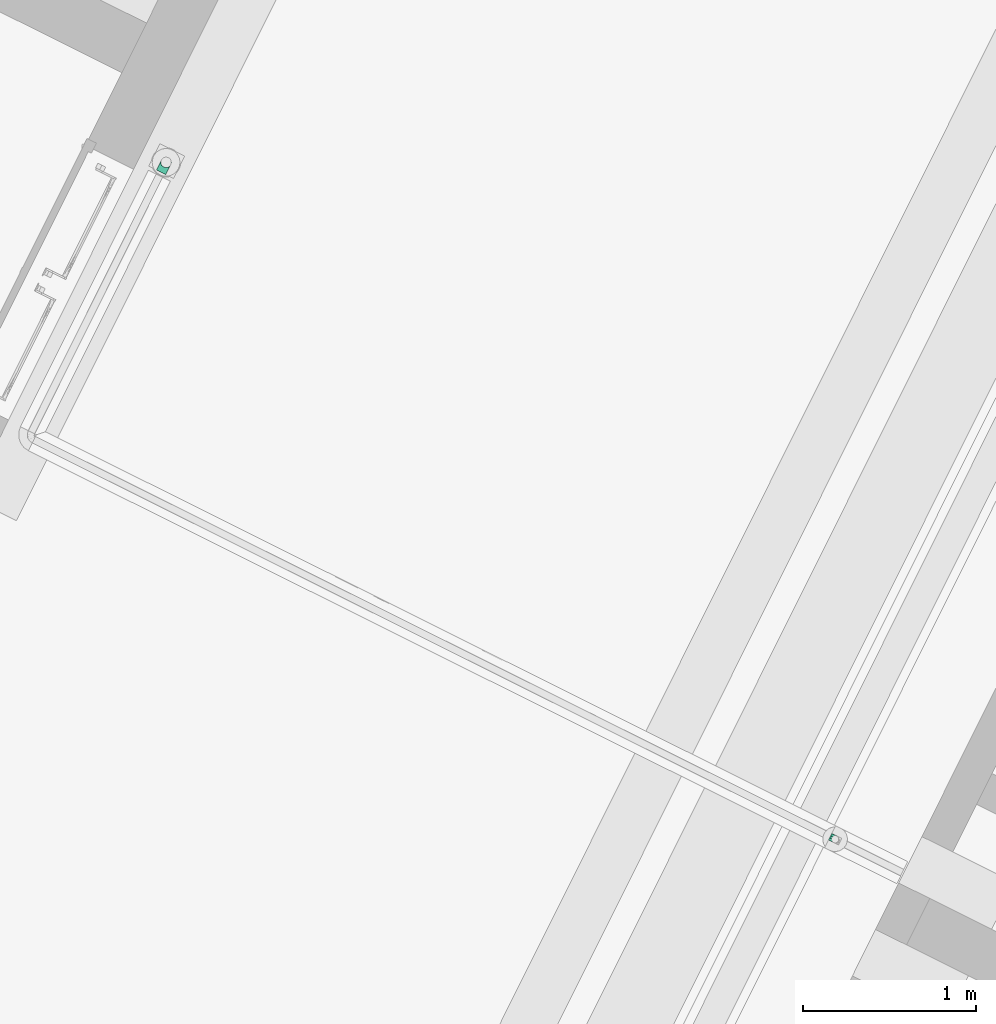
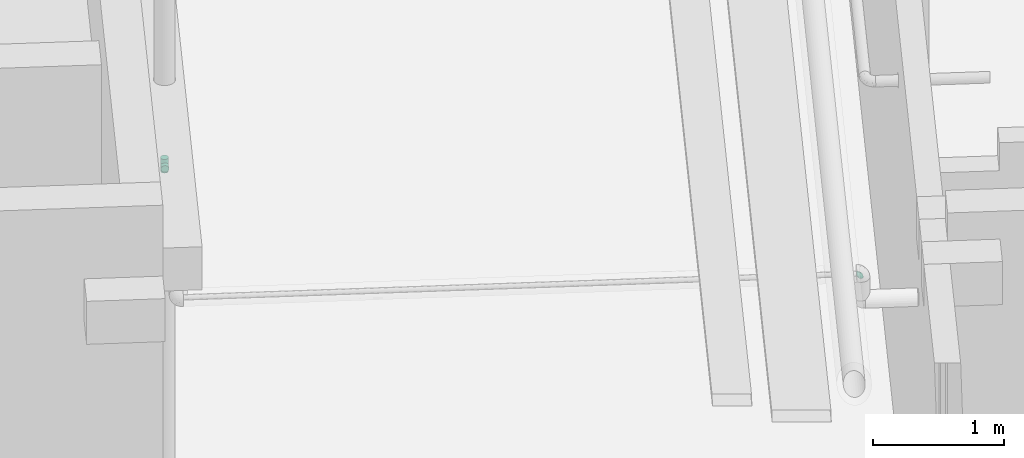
# One storey, part 89 of 91: 2 flow fittings.
"""IFC2X3 building model written with IfcOpenShell, lengths in metres."""

from ifc_helpers import new_model, entity, si_unit, converted_unit, derived_unit, direction, frame, origin, place, context, subcontext, project, spatial, faceted_brep, source, transform, mapped, type_object, type_shapes, element, save


model = new_model("IFC2X3")

# Units and contexts
model_context = context("Model", 3, precision=1e-05, world=origin(), true_north=direction((0.894925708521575, 0.446215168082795)))
context_of_model = context(None, 3, precision=1e-05, world=origin(), true_north=direction((0.894925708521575, 0.446215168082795)))
body_context = subcontext(model_context, "Body", "Model", "MODEL_VIEW")
ifc_project = project(units=[si_unit("LENGTHUNIT", "METRE"), si_unit("AREAUNIT", "SQUARE_METRE"), si_unit("VOLUMEUNIT", "CUBIC_METRE"), converted_unit("PLANEANGLEUNIT", "DEGREE", entity("IfcRatioMeasure", 0.0174532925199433), si_unit("PLANEANGLEUNIT", "RADIAN"), dimensions=[0, 0, 0, 0, 0, 0, 0]), si_unit("MASSUNIT", "GRAM", prefix="KILO"), si_unit("TIMEUNIT", "SECOND"), si_unit("FREQUENCYUNIT", "HERTZ"), si_unit("THERMODYNAMICTEMPERATUREUNIT", "DEGREE_CELSIUS"), derived_unit("THERMALTRANSMITTANCEUNIT", [(si_unit("MASSUNIT", "GRAM", prefix="KILO"), 1), (si_unit("THERMODYNAMICTEMPERATUREUNIT", "KELVIN"), -1), (si_unit("TIMEUNIT", "SECOND"), -3)]), derived_unit("VOLUMETRICFLOWRATEUNIT", [(si_unit("LENGTHUNIT", "METRE"), 3), (si_unit("TIMEUNIT", "SECOND"), -1)]), si_unit("ELECTRICCURRENTUNIT", "AMPERE"), si_unit("ELECTRICVOLTAGEUNIT", "VOLT"), si_unit("POWERUNIT", "WATT"), si_unit("FORCEUNIT", "NEWTON", prefix="KILO"), si_unit("ILLUMINANCEUNIT", "LUX"), si_unit("LUMINOUSFLUXUNIT", "LUMEN"), si_unit("LUMINOUSINTENSITYUNIT", "CANDELA"), si_unit("PRESSUREUNIT", "PASCAL")], contexts=[model_context, context_of_model])

# Site, building, storey
site_placement = place(None, frame((218.228324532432, 584.720189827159, 0.0), z_axis=(0.0, 0.0, 1.0), x_axis=(0.446215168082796, 0.894925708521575, 0.0)))
site = spatial("IfcSite", under=ifc_project, at=site_placement, Name="Default", CompositionType="ELEMENT")
building_placement = place(site_placement, origin())
building = spatial("IfcBuilding", under=site, at=building_placement, CompositionType="ELEMENT")
storey_placement = place(building_placement, origin())
storey = spatial("IfcBuildingStorey", under=building, at=storey_placement, Name="0 - Piano Terra", CompositionType="ELEMENT", Elevation=0.0)

# Flow fittings
pipe_fitting_type_1 = type_object("IfcPipeFittingType", Name="Standard", PredefinedType="NOTDEFINED")
shared_shape_1 = source(origin(), body_context, "Body", "Brep", [
    faceted_brep([(-0.0319999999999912, 0.00546108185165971, -0.0203810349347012), (-0.0319999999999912, 0.0, -0.0211000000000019), (-0.0319999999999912, -0.00546108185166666, -0.0203810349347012), (-0.0319999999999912, -0.0105500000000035, -0.0182731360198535), (-0.0319999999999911, -0.0149199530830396, -0.0149199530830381), (-0.0319999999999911, -0.0182731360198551, -0.0105500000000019), (-0.0319999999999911, -0.0203810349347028, -0.00546108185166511), (-0.0319999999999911, -0.0211000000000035, 0.0), (-0.0319999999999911, -0.0203810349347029, 0.00546108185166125), (-0.0319999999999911, -0.0182731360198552, 0.0105499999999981), (-0.0319999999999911, -0.0149199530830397, 0.0149199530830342), (-0.0319999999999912, -0.0105500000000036, 0.0182731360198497), (-0.0319999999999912, -0.00546108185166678, 0.0203810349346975), (-0.0319999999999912, 0.0, 0.0210999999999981), (-0.0319999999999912, 0.00546108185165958, 0.0203810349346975), (-0.0319999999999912, 0.00800554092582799, 0.0193270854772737), (-0.0319999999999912, 0.0105499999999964, 0.0182731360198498), (-0.0319999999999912, 0.0149199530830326, 0.0149199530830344), (-0.0319999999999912, 0.0182731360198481, 0.0105499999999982), (-0.0319999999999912, 0.0203810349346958, 0.00546108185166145), (-0.0319999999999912, 0.0210999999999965, 0.0), (-0.0319999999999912, 0.0203810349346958, -0.00546108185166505), (-0.0319999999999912, 0.0182731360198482, -0.0105500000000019), (-0.0319999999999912, 0.0149199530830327, -0.014919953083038), (-0.0319999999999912, 0.0105499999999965, -0.0182731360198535), (-0.0203810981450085, 0.0319999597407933, -0.00546108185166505), (-0.0211000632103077, 0.0319999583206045, 0.0), (-0.0203810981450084, 0.0319999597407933, 0.00546108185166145), (-0.0182731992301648, 0.0319999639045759, 0.0105499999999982), (-0.0149200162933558, 0.0319999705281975, 0.0149199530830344), (-0.0105500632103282, 0.0319999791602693, 0.0182731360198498), (-0.00800560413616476, 0.0319999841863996, 0.0193270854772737), (-0.00546114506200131, 0.0319999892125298, 0.0203810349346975), (-6.32103487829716e-08, 0.0319999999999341, 0.0210999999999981), (0.00546101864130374, 0.0320000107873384, 0.0203810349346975), (0.0105499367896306, 0.0320000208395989, 0.0182731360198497), (0.0149198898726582, 0.0320000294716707, 0.0149199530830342), (0.0165964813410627, 0.0320000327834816, 0.0127349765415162), (0.0182730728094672, 0.0320000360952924, 0.0105499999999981), (0.0203809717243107, 0.032000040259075, 0.00546108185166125), (0.02109993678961, 0.0320000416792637, 0.0), (0.0203809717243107, 0.032000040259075, -0.00546108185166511), (0.0182730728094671, 0.0320000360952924, -0.0105500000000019), (0.0149198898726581, 0.0320000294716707, -0.0149199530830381), (0.0105499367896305, 0.0320000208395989, -0.0182731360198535), (0.00546101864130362, 0.0320000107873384, -0.0203810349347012), (-6.32103489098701e-08, 0.0319999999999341, -0.0211000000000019), (-0.00546114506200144, 0.0319999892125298, -0.0203810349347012), (-0.0105500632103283, 0.0319999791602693, -0.0182731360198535), (-0.0149200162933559, 0.0319999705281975, -0.014919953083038), (-0.0182731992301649, 0.0319999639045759, -0.0105500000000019), (-0.00222608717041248, 0.0237283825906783, 0.0210713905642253), (0.00334038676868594, 0.0236615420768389, 0.0206549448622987), (-0.00900648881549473, -0.00960580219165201, 0.0142765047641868), (-0.0209292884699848, -0.0130218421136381, 0.0154568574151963), (-0.0145909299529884, -0.0153913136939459, 0.0101692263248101), (-0.0217190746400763, -0.0190549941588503, 0.0), (-0.0220283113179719, -0.0191631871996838, 0.00633713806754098), (0.0170981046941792, 0.0147219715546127, 0.00657452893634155), (0.0192913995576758, 0.0230467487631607, 0.00652111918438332), (0.0165174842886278, 0.0200572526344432, 0.0110652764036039), (-0.0238201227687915, -0.0169140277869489, 0.0116484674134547), (0.00422103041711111, 0.00733518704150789, 0.017477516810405), (-0.00183941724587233, -0.00157310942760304, 0.0165161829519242), (0.00494755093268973, 0.000859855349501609, 0.0133740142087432), (-0.0231100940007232, -0.00858351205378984, 0.0188172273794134), (-0.0268497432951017, 0.00624645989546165, 0.0203052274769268), (-0.023728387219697, 0.00222604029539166, 0.0210713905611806), (0.00636913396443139, -0.00389655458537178, 0.00481660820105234), (0.00885763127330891, 0.00100439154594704, 0.00856311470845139), (0.0031735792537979, -0.00493652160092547, 0.00916666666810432), (0.0190549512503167, 0.0217191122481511, 0.0), (-0.0249754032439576, 0.012727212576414, 0.0176991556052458), (-0.0219437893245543, 0.00803534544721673, 0.0202256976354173), (-0.00803538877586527, 0.021943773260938, 0.020225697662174), (-0.0127272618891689, 0.0249753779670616, 0.0176991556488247), (-0.0135012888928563, 0.0177999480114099, 0.0192321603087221), (-0.0259094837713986, 0.0169310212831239, 0.0140445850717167), (-0.024363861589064, -0.00336513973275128, 0.0206817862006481), (-0.00831833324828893, -0.00215624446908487, 0.0188085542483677), (-0.0155459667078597, -0.00207490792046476, 0.0202758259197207), (-0.0149621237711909, -0.00661983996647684, 0.0184646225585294), (-0.0241169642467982, 0.0234834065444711, 0.0054085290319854), (-0.0260761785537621, 0.0202340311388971, 0.00952663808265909), (0.0131865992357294, 0.0228304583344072, 0.0156902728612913), (0.0177597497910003, 0.0259911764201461, 0.0108087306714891), (-0.0196183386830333, 0.0196182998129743, 0.0153381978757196), (0.0083670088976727, 0.0205044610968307, 0.0185948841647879), (-0.00542610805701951, 0.0157915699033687, 0.0210819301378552), (-0.0119915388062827, 0.0119915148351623, 0.0207723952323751), (-0.0079143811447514, 0.00583730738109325, 0.0207972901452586), (-0.000718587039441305, -0.00512246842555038, 0.013094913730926), (-0.0157915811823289, 0.00542607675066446, 0.0210819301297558), (-0.0175404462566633, 0.0125520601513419, 0.0196189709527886), (-0.00624651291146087, 0.0268497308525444, 0.0203052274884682), (-0.00306607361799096, -0.0113026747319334, 0.0), (0.000544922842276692, -0.00927180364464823, 0.00474379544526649), (-0.00924050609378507, -0.0152715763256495, 0.00513669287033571), (-0.00250115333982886, 0.00396348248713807, 0.0192243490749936), (0.0111872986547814, 0.012156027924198, 0.0142858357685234), (0.0142347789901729, 0.0135201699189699, 0.011343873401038), (-0.0211737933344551, 0.0270533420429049, 0.006427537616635), (0.0170579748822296, 0.01167954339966, 0.0), (-0.0209433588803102, 0.0244619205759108, 0.00992838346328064), (-0.0169310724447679, 0.0259094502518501, 0.0140445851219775), (0.00815720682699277, 0.0134412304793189, 0.0171881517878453), (0.00158969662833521, 0.0138945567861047, 0.0201812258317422), (-0.0242925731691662, 0.0242925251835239, 0.0), (-0.0156140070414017, -0.0173766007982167, 0.00665048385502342), (-0.0116795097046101, -0.0170579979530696, 0.0), (0.00554736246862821, -0.0055473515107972, 0.0), (0.0113026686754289, 0.00306609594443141, 0.0), (0.0108450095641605, 0.0014767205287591, 0.00454001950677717), (0.0112958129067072, 0.00704589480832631, 0.0110545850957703), (-0.01809461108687, 0.0165443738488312, 0.0178760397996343), (-0.00497917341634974, -0.0112747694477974, 0.00913933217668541), (-0.00893576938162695, -0.00624356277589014, 0.0168798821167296), (-0.015691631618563, 0.0210348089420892, 0.0171095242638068), (-0.00342687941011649, 0.011204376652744, 0.0208340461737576), (0.0134913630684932, 0.00703928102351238, 0.00704440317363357), (0.00841563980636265, 0.00627757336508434, 0.0138629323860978), (0.0139147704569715, 0.0140607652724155, -0.0120870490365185), (0.0170731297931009, 0.014399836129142, -0.0063116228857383), (0.013397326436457, 0.00669115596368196, -0.00679611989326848), (-0.0167699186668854, 0.00347561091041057, -0.0210973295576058), (-0.0230301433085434, 0.00785301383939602, -0.0201559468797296), (-0.0147344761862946, 0.0101848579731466, -0.0206819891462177), (-0.0249600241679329, 0.00216541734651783, -0.0210570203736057), (-0.0269235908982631, 0.0219306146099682, -0.00396892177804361), (-0.0108637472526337, -0.00653033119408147, -0.0173920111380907), (-0.0194617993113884, -0.00823415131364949, -0.0185024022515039), (-0.0125598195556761, -0.0022070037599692, -0.0197802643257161), (-0.0268338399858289, 0.0205122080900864, -0.00828818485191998), (-0.0248837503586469, 0.0171837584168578, -0.0142474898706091), (-0.0228721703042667, -0.0192710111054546, -0.0064897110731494), (-0.0193464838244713, -0.0164084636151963, -0.0109522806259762), (-0.0143998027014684, -0.0170731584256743, -0.00631162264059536), (-0.0266001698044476, -0.0170138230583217, -0.012064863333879), (-0.00785305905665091, 0.0230301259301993, -0.0201559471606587), (-0.0252598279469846, 0.0126864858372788, -0.0176618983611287), (-0.0230841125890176, -0.0033100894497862, -0.0206322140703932), (-0.0200191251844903, 0.0119073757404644, -0.0192649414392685), (-0.0225715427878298, -0.0131689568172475, -0.0156588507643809), (0.0164084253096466, 0.0193465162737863, -0.0109522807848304), (0.0170137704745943, 0.0266002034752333, -0.0120648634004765), (0.0192709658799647, 0.0228722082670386, -0.00648971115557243), (-0.0105319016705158, -0.0106442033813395, -0.014048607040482), (-0.0171838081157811, 0.0248837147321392, -0.0142474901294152), (-0.0266864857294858, -0.00861267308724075, -0.0191036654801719), (0.00331004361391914, 0.0230841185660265, -0.020632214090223), (-0.0222937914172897, 0.0222937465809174, -0.0105497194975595), (-0.0203536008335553, 0.0203535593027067, -0.0142844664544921), (-0.0221528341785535, 0.0262369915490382, -0.00460940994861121), (-0.00807834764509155, 0.00807833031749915, -0.0210204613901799), (-0.0126865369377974, 0.0252598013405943, -0.0176618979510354), (-0.00216546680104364, 0.0249600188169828, -0.0210570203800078), (0.0131689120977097, 0.0225715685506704, -0.015658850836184), (-0.0202234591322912, 0.0270426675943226, -0.00870076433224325), (0.00220697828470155, 0.0125598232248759, -0.0197802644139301), (0.00404629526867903, 0.00564708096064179, -0.0168858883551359), (-0.0035066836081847, 0.00350667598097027, -0.0194008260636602), (0.00861262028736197, 0.0266865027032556, -0.0191036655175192), (0.00823411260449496, 0.0194618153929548, -0.018502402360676), (0.00902993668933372, 0.0017851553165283, -0.00926953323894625), (0.00883191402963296, -0.00110646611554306, -0.00471274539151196), (-0.00347564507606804, 0.0167699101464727, -0.0210973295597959), (0.0120397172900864, 0.00786669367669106, -0.0106437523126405), (-0.00165978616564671, -0.00597163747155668, -0.0130195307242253), (-0.00858695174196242, -0.0124343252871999, -0.0106324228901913), (0.0106441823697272, 0.0105319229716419, -0.0140486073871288), (0.00627834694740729, 0.0123278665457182, -0.0179828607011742), (-0.0164381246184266, 0.0206141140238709, -0.0168366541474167), (-0.0160857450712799, 0.0160857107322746, -0.0188435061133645), (-0.0206141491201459, 0.016438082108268, -0.0168366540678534), (-0.0106154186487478, 0.016194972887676, -0.0203950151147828), (-0.00669113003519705, -0.0133973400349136, -0.00679611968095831), (0.00175952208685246, -0.00801862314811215, -0.00555204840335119), (-0.00301868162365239, -0.00338566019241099, -0.0160139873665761), (0.00342819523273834, -0.00342818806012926, -0.0108392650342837), (-0.00243035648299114, -0.00914615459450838, -0.0098320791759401), (-0.00670256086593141, -0.00186856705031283, -0.0184300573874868), (0.00640722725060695, 0.00275631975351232, -0.0134309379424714)], [[[0, 1, 2, 3, 4, 5, 6, 7, 8, 9, 10, 11, 12, 13, 14, 15, 16, 17, 18, 19, 20, 21, 22, 23, 24]], [[25, 26, 27, 28, 29, 30, 31, 32, 33, 34, 35, 36, 37, 38, 39, 40, 41, 42, 43, 44, 45, 46, 47, 48, 49, 50]], [[33, 51, 52]], [[53, 54, 55]], [[8, 56, 57]], [[58, 59, 60]], [[61, 10, 9]], [[8, 7, 56]], [[62, 63, 64]], [[54, 10, 61]], [[54, 65, 11]], [[16, 15, 14, 66]], [[14, 13, 67]], [[68, 69, 70]], [[40, 39, 71]], [[72, 66, 73]], [[74, 75, 76]], [[77, 18, 17]], [[78, 13, 12]], [[66, 72, 16]], [[79, 80, 81]], [[82, 19, 83]], [[84, 85, 36]], [[20, 19, 82]], [[83, 77, 86]], [[87, 84, 35]], [[72, 17, 16]], [[88, 89, 90]], [[70, 64, 91]], [[73, 92, 93]], [[34, 33, 52]], [[73, 67, 92]], [[84, 36, 35]], [[35, 34, 87]], [[94, 51, 32]], [[59, 39, 38]], [[95, 96, 97]], [[30, 29, 75]], [[63, 62, 98]], [[85, 59, 38]], [[64, 70, 69]], [[74, 88, 51]], [[99, 100, 84]], [[101, 28, 27]], [[59, 102, 71]], [[103, 86, 104]], [[105, 106, 62]], [[82, 101, 107]], [[8, 57, 9]], [[94, 30, 75]], [[77, 83, 18]], [[94, 32, 31, 30]], [[97, 108, 109]], [[29, 28, 104]], [[51, 33, 32]], [[107, 101, 26]], [[11, 65, 12]], [[54, 11, 10]], [[110, 111, 112]], [[100, 99, 113]], [[109, 57, 56]], [[57, 108, 61]], [[104, 75, 29]], [[74, 76, 89]], [[88, 74, 89]], [[106, 87, 52]], [[78, 67, 13]], [[80, 90, 92]], [[93, 89, 76]], [[72, 114, 77]], [[70, 91, 115]], [[63, 79, 116]], [[115, 53, 55]], [[70, 96, 68]], [[58, 60, 100]], [[71, 39, 59]], [[84, 87, 105]], [[85, 38, 37, 36]], [[81, 54, 53]], [[65, 81, 78]], [[106, 52, 51]], [[87, 34, 52]], [[103, 104, 28]], [[104, 86, 117]], [[72, 77, 17]], [[83, 86, 103]], [[82, 83, 103]], [[19, 18, 83]], [[57, 61, 9]], [[54, 61, 55]], [[101, 82, 103]], [[82, 107, 20]], [[65, 78, 12]], [[67, 78, 80]], [[86, 114, 117]], [[114, 72, 93]], [[92, 89, 93]], [[106, 51, 88]], [[98, 79, 63]], [[118, 88, 90]], [[80, 92, 67]], [[90, 89, 92]], [[119, 102, 58]], [[102, 59, 58]], [[114, 93, 76]], [[72, 73, 93]], [[55, 97, 115]], [[96, 70, 115]], [[108, 97, 55]], [[96, 110, 68]], [[95, 97, 109]], [[97, 96, 115]], [[110, 96, 95]], [[112, 119, 69]], [[68, 112, 69]], [[119, 113, 69]], [[102, 119, 111]], [[64, 63, 91]], [[113, 64, 69]], [[118, 98, 106]], [[113, 120, 64]], [[62, 120, 105]], [[119, 58, 100]], [[113, 99, 120]], [[100, 113, 119]], [[84, 100, 60]], [[110, 112, 68]], [[111, 119, 112]], [[117, 76, 75]], [[114, 86, 77]], [[76, 117, 114]], [[104, 117, 75]], [[106, 98, 62]], [[79, 90, 80]], [[90, 79, 98]], [[78, 81, 80]], [[54, 81, 65]], [[116, 79, 81]], [[105, 120, 99]], [[62, 64, 120]], [[116, 91, 63]], [[115, 91, 53]], [[81, 53, 116]], [[116, 53, 91]], [[94, 75, 74]], [[51, 94, 74]], [[73, 66, 67]], [[14, 67, 66]], [[85, 84, 60]], [[59, 85, 60]], [[28, 101, 103]], [[26, 101, 27]], [[98, 118, 90]], [[106, 88, 118]], [[61, 108, 55]], [[109, 108, 57]], [[84, 105, 99]], [[106, 105, 87]], [[121, 122, 123]], [[124, 125, 126]], [[124, 127, 125]], [[127, 1, 0]], [[20, 128, 21]], [[129, 130, 131]], [[132, 133, 22]], [[134, 135, 136]], [[23, 22, 133]], [[4, 137, 5]], [[47, 138, 48]], [[24, 23, 139]], [[109, 56, 134]], [[140, 2, 1]], [[134, 6, 5]], [[125, 141, 126]], [[142, 4, 3]], [[143, 144, 145]], [[135, 142, 146]], [[50, 49, 147]], [[137, 134, 5]], [[3, 148, 142]], [[148, 140, 130]], [[148, 3, 2]], [[45, 149, 46]], [[130, 140, 131]], [[20, 107, 128]], [[150, 151, 133]], [[26, 25, 152]], [[41, 40, 71]], [[126, 153, 124]], [[132, 21, 128]], [[154, 147, 49]], [[47, 155, 138]], [[47, 46, 155]], [[43, 156, 44]], [[144, 43, 42]], [[150, 157, 147]], [[158, 159, 160]], [[161, 149, 45]], [[161, 156, 162]], [[125, 0, 24]], [[163, 123, 164]], [[165, 149, 158]], [[157, 150, 152]], [[161, 45, 44]], [[139, 23, 133]], [[145, 122, 143]], [[121, 123, 166]], [[56, 7, 6]], [[146, 167, 168]], [[169, 162, 156]], [[159, 158, 170]], [[42, 41, 145]], [[171, 172, 173]], [[150, 132, 152]], [[49, 48, 154]], [[165, 153, 174]], [[151, 150, 147]], [[139, 141, 125]], [[123, 102, 111]], [[95, 175, 176]], [[164, 123, 111]], [[159, 177, 160]], [[178, 176, 179]], [[178, 164, 176]], [[144, 156, 43]], [[156, 143, 121]], [[158, 149, 162]], [[155, 149, 165]], [[170, 169, 159]], [[158, 160, 153]], [[146, 142, 130]], [[137, 142, 135]], [[127, 140, 1]], [[124, 153, 131]], [[124, 131, 140]], [[180, 129, 131]], [[168, 136, 135]], [[56, 6, 134]], [[41, 71, 145]], [[102, 145, 71]], [[48, 138, 154]], [[154, 138, 174]], [[173, 133, 151]], [[125, 24, 139]], [[169, 166, 181]], [[178, 179, 167]], [[177, 159, 181]], [[146, 130, 129]], [[125, 127, 0]], [[140, 127, 124]], [[149, 155, 46]], [[138, 155, 165]], [[174, 126, 172]], [[126, 174, 153]], [[158, 153, 165]], [[131, 153, 160]], [[175, 109, 136]], [[109, 134, 136]], [[145, 102, 122]], [[102, 123, 122]], [[152, 128, 107]], [[128, 152, 132]], [[26, 152, 107]], [[152, 25, 157]], [[133, 132, 150]], [[22, 21, 132]], [[25, 50, 157]], [[147, 157, 50]], [[154, 174, 172]], [[165, 174, 138]], [[176, 164, 110]], [[164, 111, 110]], [[163, 164, 178]], [[95, 109, 175]], [[176, 175, 179]], [[176, 110, 95]], [[181, 163, 178]], [[166, 123, 163]], [[181, 178, 167]], [[169, 181, 159]], [[181, 166, 163]], [[121, 166, 169]], [[156, 121, 169]], [[122, 121, 143]], [[168, 179, 175]], [[167, 146, 177]], [[136, 168, 175]], [[135, 146, 168]], [[167, 179, 168]], [[181, 167, 177]], [[180, 131, 160]], [[146, 129, 177]], [[160, 177, 180]], [[177, 129, 180]], [[156, 161, 44]], [[149, 161, 162]], [[145, 144, 42]], [[156, 144, 143]], [[140, 148, 2]], [[142, 148, 130]], [[142, 137, 4]], [[134, 137, 135]], [[171, 151, 147]], [[151, 171, 173]], [[147, 154, 171]], [[154, 172, 171]], [[141, 173, 172]], [[139, 133, 173]], [[173, 141, 139]], [[126, 141, 172]], [[158, 162, 170]], [[169, 170, 162]]]),
])
type_shapes(pipe_fitting_type_1, [shared_shape_1])
flow_fitting_1_placement = place(storey_placement, frame((-4.52187198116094, -4.55887665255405, 3.50000967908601), z_axis=(-1.0, 0.0, 0.0), x_axis=(0.0, 0.0, 1.0)))
element("IfcFlowFitting", 1, at=flow_fitting_1_placement, inside=storey, type_object=pipe_fitting_type_1, Name="M_Gomito - Saldato - Generico:Standard", ObjectType="Standard", context=body_context, shape_type="MappedRepresentation", body=[
    mapped(shared_shape_1, transform((0.0, 0.0, 0.0), scale=1.0)),
])
pipe_fitting_type_2 = type_object("IfcPipeFittingType", Name="Standard", PredefinedType="NOTDEFINED")
shared_shape_2 = source(origin(), body_context, "Body", "Brep", [
    faceted_brep([(-0.0639999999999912, 0.0150749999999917, -0.0261106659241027), (-0.0639999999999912, 0.00780339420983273, -0.0291226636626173), (-0.0639999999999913, 0.0, -0.0301500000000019), (-0.0639999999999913, -0.00780339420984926, -0.0291226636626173), (-0.0639999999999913, -0.0150750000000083, -0.0261106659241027), (-0.0639999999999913, -0.0213192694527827, -0.0213192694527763), (-0.0639999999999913, -0.0261106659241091, -0.0150750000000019), (-0.0639999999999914, -0.0291226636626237, -0.00780339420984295), (-0.0639999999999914, -0.0301500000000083, 0.0), (-0.0639999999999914, -0.0291226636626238, 0.00780339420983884), (-0.0639999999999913, -0.0261106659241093, 0.0150749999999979), (-0.0639999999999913, -0.0213192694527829, 0.0213192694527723), (-0.0639999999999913, -0.0150750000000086, 0.0261106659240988), (-0.0639999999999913, -0.00780339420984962, 0.0291226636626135), (-0.0639999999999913, 0.0, 0.0301499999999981), (-0.0639999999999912, 0.00780339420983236, 0.0291226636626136), (-0.0639999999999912, 0.0150749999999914, 0.0261106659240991), (-0.0639999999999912, 0.0213192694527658, 0.0213192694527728), (-0.0639999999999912, 0.0261106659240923, 0.0150749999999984), (-0.0639999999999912, 0.029122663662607, 0.00780339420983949), (-0.0639999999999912, 0.0301499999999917, 0.0), (-0.0639999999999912, 0.0291226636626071, -0.00780339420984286), (-0.0639999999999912, 0.0261106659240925, -0.0150750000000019), (-0.0639999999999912, 0.0213192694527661, -0.0213192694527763), (0.0640000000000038, 0.0, -0.0301500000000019), (0.0640000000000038, 0.00780339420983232, -0.0291226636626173), (0.0640000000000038, 0.0150749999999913, -0.0261106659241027), (0.0640000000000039, 0.0213192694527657, -0.0213192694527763), (0.0640000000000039, 0.0261106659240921, -0.0150750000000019), (0.0640000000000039, 0.0291226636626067, -0.00780339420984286), (0.0640000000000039, 0.0301499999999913, 0.0), (0.0640000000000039, 0.0291226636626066, 0.00780339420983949), (0.0640000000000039, 0.0261106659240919, 0.0150749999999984), (0.0640000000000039, 0.0213192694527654, 0.0213192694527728), (0.0640000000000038, 0.015074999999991, 0.0261106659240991), (0.0640000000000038, 0.00780339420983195, 0.0291226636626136), (0.0640000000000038, 0.0, 0.0301499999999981), (0.0640000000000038, -0.00780339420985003, 0.0291226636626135), (0.0640000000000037, -0.015075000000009, 0.0261106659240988), (0.0640000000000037, -0.0213192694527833, 0.0213192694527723), (0.0640000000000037, -0.0261106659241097, 0.0150749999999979), (0.0640000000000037, -0.0291226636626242, 0.00780339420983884), (0.0640000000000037, -0.0301500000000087, 0.0), (0.0640000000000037, -0.0291226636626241, -0.00780339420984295), (0.0640000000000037, -0.0261106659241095, -0.0150750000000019), (0.0640000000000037, -0.0213192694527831, -0.0213192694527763), (0.0640000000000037, -0.0150750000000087, -0.0261106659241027), (0.0640000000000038, -0.00780339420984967, -0.0291226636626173), (0.0290562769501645, -0.0290562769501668, 0.00804706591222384), (0.0301500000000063, -0.0301500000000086, 0.0), (-0.0301499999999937, -0.0301500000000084, 0.0), (0.0260947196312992, -0.0260947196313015, 0.0151025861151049), (0.0168977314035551, -0.0168977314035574, 0.0249697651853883), (0.0218777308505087, -0.021877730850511, 0.0207457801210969), (-0.0290562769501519, -0.0290562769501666, 0.00804706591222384), (-0.0260947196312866, -0.0260947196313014, 0.0151025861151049), (-0.0218777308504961, -0.0218777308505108, 0.0207457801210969), (-0.0168977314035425, -0.0168977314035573, 0.0249697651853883), (-0.01146835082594, -0.0114683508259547, 0.0278836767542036), (0.0114683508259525, -0.0114683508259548, 0.0278836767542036), (0.00578937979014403, -0.00578937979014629, 0.0295889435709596), (0.0, 0.0, 0.0301499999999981), (-0.00578937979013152, -0.00578937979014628, 0.0295889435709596), (0.00578937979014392, -0.0057893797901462, -0.0295889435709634), (0.0, 0.0, -0.0301500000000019), (-0.00578937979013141, -0.00578937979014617, -0.0295889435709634), (-0.0114683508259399, -0.0114683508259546, -0.0278836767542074), (0.0114683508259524, -0.0114683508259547, -0.0278836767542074), (0.016897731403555, -0.0168977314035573, -0.0249697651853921), (0.0218777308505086, -0.0218777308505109, -0.0207457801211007), (0.0260947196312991, -0.0260947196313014, -0.0151025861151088), (0.0290562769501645, -0.0290562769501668, -0.00804706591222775), (-0.0168977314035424, -0.0168977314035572, -0.0249697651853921), (-0.021877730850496, -0.0218777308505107, -0.0207457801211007), (-0.0290562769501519, -0.0290562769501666, -0.00804706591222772), (-0.0260947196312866, -0.0260947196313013, -0.0151025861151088), (0.0, -0.0640000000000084, -0.0301500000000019), (0.0078033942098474, -0.0640000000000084, -0.0291226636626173), (0.0150750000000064, -0.0640000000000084, -0.0261106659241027), (0.0213192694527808, -0.0640000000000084, -0.0213192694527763), (0.0261106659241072, -0.0640000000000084, -0.0150750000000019), (0.0291226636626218, -0.0640000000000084, -0.00780339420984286), (0.0301500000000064, -0.0640000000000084, 0.0), (0.0291226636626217, -0.0640000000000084, 0.00780339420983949), (0.026110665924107, -0.0640000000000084, 0.0150749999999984), (0.0213192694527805, -0.0640000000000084, 0.0213192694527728), (0.0150750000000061, -0.0640000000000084, 0.0261106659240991), (0.00780339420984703, -0.0640000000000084, 0.0291226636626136), (0.0, -0.0640000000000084, 0.0301499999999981), (-0.00780339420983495, -0.0640000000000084, 0.0291226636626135), (-0.0150749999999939, -0.0640000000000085, 0.0261106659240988), (-0.0213192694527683, -0.0640000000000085, 0.0213192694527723), (-0.0261106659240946, -0.0640000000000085, 0.0150749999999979), (-0.0291226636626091, -0.0640000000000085, 0.00780339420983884), (-0.0301499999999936, -0.0640000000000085, 0.0), (-0.029122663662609, -0.0640000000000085, -0.00780339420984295), (-0.0261106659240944, -0.0640000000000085, -0.0150750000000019), (-0.021319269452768, -0.0640000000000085, -0.0213192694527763), (-0.0150749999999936, -0.0640000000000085, -0.0261106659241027), (-0.00780339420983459, -0.0640000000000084, -0.0291226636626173)], [[[0, 1, 2, 3, 4, 5, 6, 7, 8, 9, 10, 11, 12, 13, 14, 15, 16, 17, 18, 19, 20, 21, 22, 23]], [[24, 25, 26, 27, 28, 29, 30, 31, 32, 33, 34, 35, 36, 37, 38, 39, 40, 41, 42, 43, 44, 45, 46, 47]], [[41, 40, 48]], [[42, 41, 49]], [[50, 9, 8]], [[49, 41, 48]], [[40, 51, 48]], [[39, 38, 52]], [[51, 40, 53]], [[52, 53, 39]], [[53, 40, 39]], [[50, 54, 9]], [[9, 54, 10]], [[54, 55, 10]], [[56, 57, 11]], [[11, 10, 56]], [[11, 57, 12]], [[56, 10, 55]], [[12, 57, 58]], [[52, 38, 59]], [[60, 36, 61]], [[62, 61, 14]], [[59, 37, 60]], [[37, 59, 38]], [[60, 37, 36]], [[61, 36, 35, 15, 14]], [[32, 31, 19, 18]], [[17, 16, 34, 33]], [[18, 17, 33, 32]], [[35, 34, 16, 15]], [[20, 19, 31, 30]], [[62, 13, 58]], [[13, 62, 14]], [[58, 13, 12]], [[27, 23, 22, 28]], [[22, 21, 29, 28]], [[0, 23, 27, 26]], [[20, 30, 29, 21]], [[24, 47, 63]], [[24, 64, 2, 1, 25]], [[64, 24, 63]], [[2, 64, 65]], [[26, 25, 1, 0]], [[65, 66, 3]], [[2, 65, 3]], [[66, 4, 3]], [[63, 47, 67]], [[46, 45, 68]], [[69, 68, 45]], [[44, 70, 69]], [[69, 45, 44]], [[46, 68, 67]], [[43, 42, 49]], [[7, 50, 8]], [[43, 71, 44]], [[71, 43, 49]], [[44, 71, 70]], [[72, 4, 66]], [[72, 5, 4]], [[5, 72, 73]], [[5, 73, 6]], [[74, 50, 7]], [[75, 74, 6]], [[74, 7, 6]], [[75, 6, 73]], [[46, 67, 47]], [[76, 77, 78, 79, 80, 81, 82, 83, 84, 85, 86, 87, 88, 89, 90, 91, 92, 93, 94, 95, 96, 97, 98, 99]], [[50, 94, 93]], [[54, 50, 93]], [[91, 90, 57]], [[56, 92, 91]], [[54, 93, 92]], [[58, 90, 89]], [[55, 54, 92]], [[56, 55, 92]], [[58, 57, 90]], [[88, 61, 62]], [[58, 89, 62]], [[56, 91, 57]], [[62, 89, 88]], [[60, 88, 87]], [[86, 59, 87]], [[84, 83, 48]], [[53, 85, 84]], [[52, 86, 85]], [[49, 83, 82]], [[59, 60, 87]], [[52, 59, 86]], [[49, 48, 83]], [[51, 53, 84]], [[48, 51, 84]], [[52, 85, 53]], [[88, 60, 61]], [[82, 81, 49]], [[71, 49, 81]], [[69, 80, 79]], [[79, 78, 68]], [[71, 81, 80]], [[67, 78, 77]], [[70, 71, 80]], [[69, 70, 80]], [[67, 68, 78]], [[76, 64, 63]], [[67, 77, 63]], [[69, 79, 68]], [[63, 77, 76]], [[65, 76, 99]], [[98, 66, 99]], [[96, 95, 74]], [[73, 97, 96]], [[72, 98, 97]], [[50, 95, 94]], [[66, 65, 99]], [[72, 66, 98]], [[50, 74, 95]], [[75, 73, 96]], [[74, 75, 96]], [[72, 97, 73]], [[76, 65, 64]]]),
])
type_shapes(pipe_fitting_type_2, [shared_shape_2])
flow_fitting_2_placement = place(storey_placement, frame((-2.7457850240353, 0.648921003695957, 3.499999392), z_axis=(0.0, 1.0, 0.0), x_axis=(0.0, 0.0, 1.0)))
element("IfcFlowFitting", 2, at=flow_fitting_2_placement, inside=storey, type_object=pipe_fitting_type_2, Name="M_Raccordo a T - Saldato - Generico:Standard", ObjectType="Standard", context=body_context, shape_type="MappedRepresentation", body=[
    mapped(shared_shape_2, transform((0.0, 0.0, 0.0), scale=1.0)),
])

save(model, "model.ifc")
